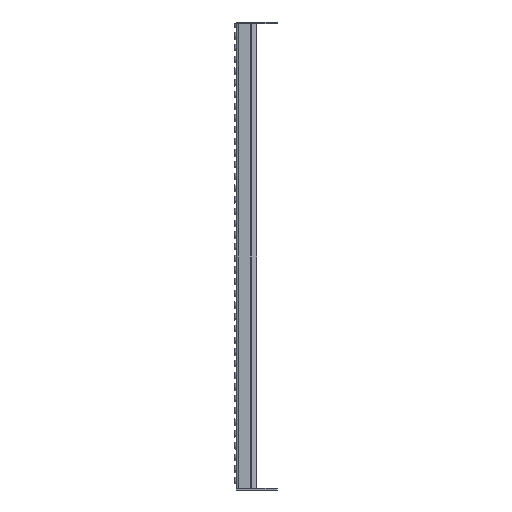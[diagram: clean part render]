
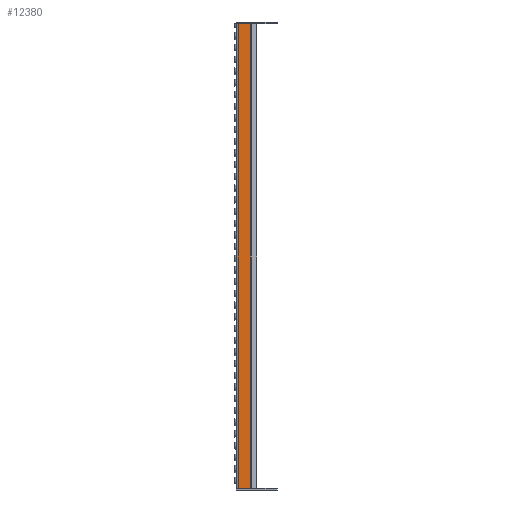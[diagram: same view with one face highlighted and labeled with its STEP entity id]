
A CAD part, left-side view. The second image highlights one B-rep face of the part: STEP entity #12380.
In plain terms, the highlighted planar face has unit normal (-1, 0, 0).
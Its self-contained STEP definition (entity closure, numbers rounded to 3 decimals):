
#1795=FACE_OUTER_BOUND('',#2770,.T.);
#2770=EDGE_LOOP('',(#10647,#10648,#10649,#10650));
#3709=LINE('',#23565,#4877);
#3720=LINE('',#23595,#4888);
#3730=LINE('',#23618,#4898);
#3737=LINE('',#23633,#4905);
#4877=VECTOR('',#16573,10.);
#4888=VECTOR('',#16598,10.);
#4898=VECTOR('',#16620,10.);
#4905=VECTOR('',#16639,10.);
#6128=VERTEX_POINT('',#23562);
#6129=VERTEX_POINT('',#23564);
#6141=VERTEX_POINT('',#23594);
#6148=VERTEX_POINT('',#23617);
#7651=EDGE_CURVE('',#6129,#6128,#3709,.T.);
#7666=EDGE_CURVE('',#6128,#6141,#3720,.T.);
#7678=EDGE_CURVE('',#6148,#6129,#3730,.T.);
#7686=EDGE_CURVE('',#6141,#6148,#3737,.T.);
#10647=ORIENTED_EDGE('',*,*,#7666,.T.);
#10648=ORIENTED_EDGE('',*,*,#7686,.T.);
#10649=ORIENTED_EDGE('',*,*,#7678,.T.);
#10650=ORIENTED_EDGE('',*,*,#7651,.T.);
#11563=PLANE('',#13663);
#12380=ADVANCED_FACE('',(#1795),#11563,.T.);
#13663=AXIS2_PLACEMENT_3D('',#23634,#16640,#16641);
#16573=DIRECTION('',(0.,1.,0.));
#16598=DIRECTION('',(0.,0.,-1.));
#16620=DIRECTION('',(0.,0.,1.));
#16639=DIRECTION('',(0.,-1.,0.));
#16640=DIRECTION('center_axis',(-1.,0.,0.));
#16641=DIRECTION('ref_axis',(0.,0.,1.));
#23562=CARTESIAN_POINT('',(0.,-3.25,794.));
#23564=CARTESIAN_POINT('',(0.,-24.427,794.));
#23565=CARTESIAN_POINT('',(0.,0.,794.));
#23594=CARTESIAN_POINT('',(0.,-3.25,0.));
#23595=CARTESIAN_POINT('',(0.,-3.25,0.));
#23617=CARTESIAN_POINT('',(0.,-24.427,0.));
#23618=CARTESIAN_POINT('',(0.,-24.427,198.5));
#23633=CARTESIAN_POINT('',(0.,0.,0.));
#23634=CARTESIAN_POINT('Origin',(0.,-25.,0.));
